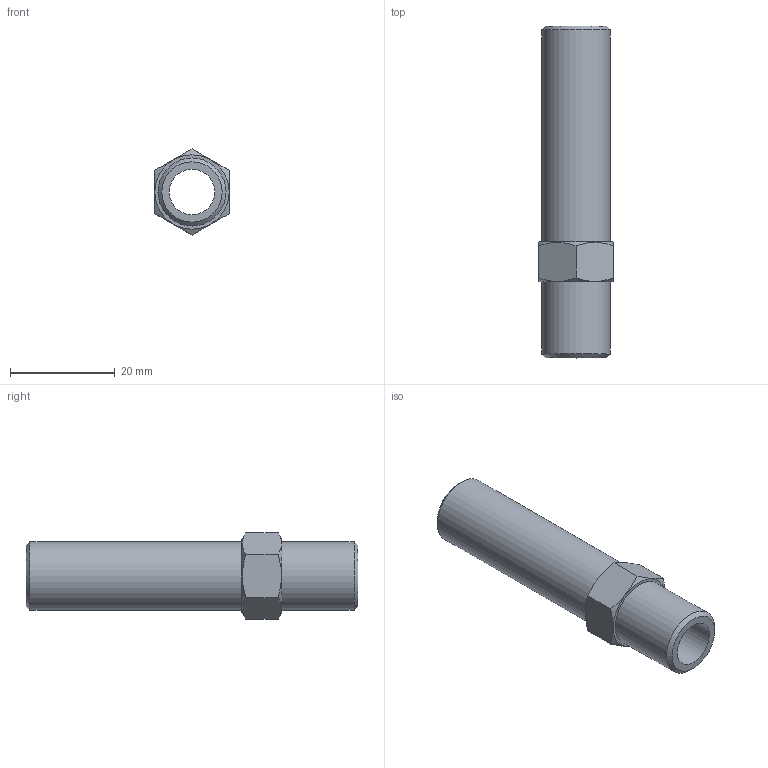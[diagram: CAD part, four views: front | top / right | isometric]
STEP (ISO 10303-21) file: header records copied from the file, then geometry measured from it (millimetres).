
FILE_DESCRIPTION(/* description */ (''),/* implementation_level */ '2;1');
FILE_NAME(/* name */ 'C:/Users/drich/Desktop/APN14-2-1_2 v1.step',/* time_stamp */ '2019-12-27T17:44:41-06:00',/* author */ (''),/* organization */ (''),/* preprocessor_version */ 'ST-DEVELOPER v18',/* originating_system */ 'Autodesk Translation Framework v8.12.0.6',/* authorisation */ '');
FILE_SCHEMA (('AUTOMOTIVE_DESIGN { 1 0 10303 214 3 1 1 }'));
Length unit declared in the file: inch
Products named in the file (1): APN14-2-1_2
Bounding box: 14.27 x 63.5 x 16.48 mm (x, y, z)
Volume: 4981.7 mm3; surface area: 4577.4 mm2
Topology: 1 solids, 1 shells, 17 faces, 39 edges, 26 vertices
Faces by surface type: plane 10, cone 4, cylinder 3
Full cylindrical faces by diameter (mm): 8.712 x1, 13.032 x2
Entity records: 521 total; most frequent: CARTESIAN_POINT 107, ORIENTED_EDGE 78, DIRECTION 77, EDGE_CURVE 39, AXIS2_PLACEMENT_3D 32, VERTEX_POINT 26, EDGE_LOOP 21, FACE_OUTER_BOUND 17
